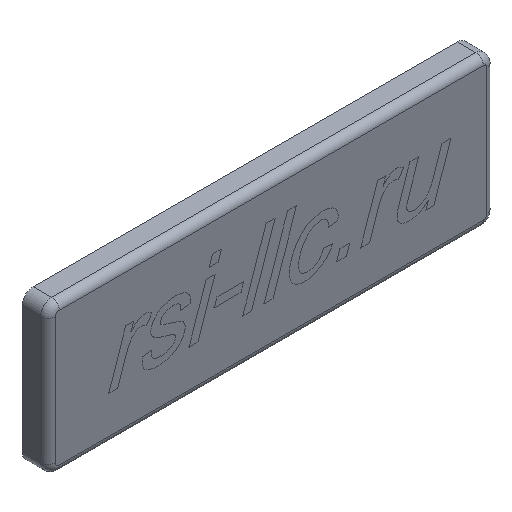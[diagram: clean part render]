
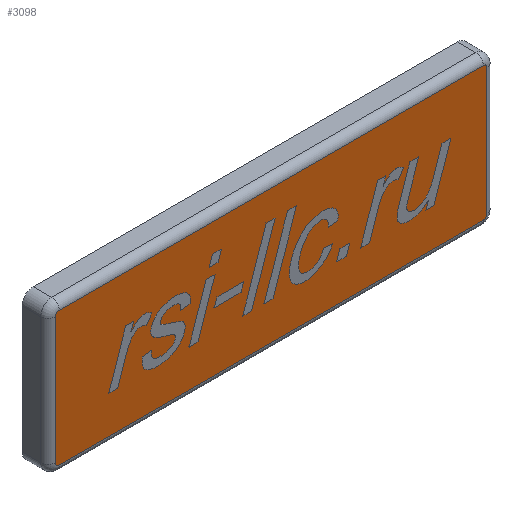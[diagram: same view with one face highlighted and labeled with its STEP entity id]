
A CAD part, isometric view. The second image highlights one B-rep face of the part: STEP entity #3098.
In plain terms, the highlighted planar face has unit normal (0, -1, 0).
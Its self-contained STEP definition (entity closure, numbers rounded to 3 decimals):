
#333 = DIRECTION ( 'NONE',  ( 0., 0., 1. ) ) ;
#494 = DIRECTION ( 'NONE',  ( 0., 1., 0. ) ) ;
#568 = VERTEX_POINT ( 'NONE', #6087 ) ;
#889 = VERTEX_POINT ( 'NONE', #9337 ) ;
#979 = AXIS2_PLACEMENT_3D ( 'NONE', #1984, #5409, #333 ) ;
#1286 = DIRECTION ( 'NONE',  ( 0., 0., 1. ) ) ;
#1600 = DIRECTION ( 'NONE',  ( 0., 0., 1. ) ) ;
#1984 = CARTESIAN_POINT ( 'NONE',  ( 28.5, 0., -8.5 ) ) ;
#2035 = VECTOR ( 'NONE', #6998, 1000. ) ;
#2042 = CARTESIAN_POINT ( 'NONE',  ( 0., 0., -9. ) ) ;
#2140 = VERTEX_POINT ( 'NONE', #11136 ) ;
#2159 = VERTEX_POINT ( 'NONE', #3340 ) ;
#2297 = CARTESIAN_POINT ( 'NONE',  ( 29., 0., 8.5 ) ) ;
#2430 = CARTESIAN_POINT ( 'NONE',  ( -29., 0., 0. ) ) ;
#2481 = EDGE_CURVE ( 'NONE', #4047, #2159, #9259, .T. ) ;
#2607 = ORIENTED_EDGE ( 'NONE', *, *, #8171, .T. ) ;
#2702 = EDGE_CURVE ( 'NONE', #5260, #568, #8004, .T. ) ;
#3098 = ADVANCED_FACE ( 'NONE', ( #4765 ), #4141, .F. ) ;
#3138 = DIRECTION ( 'NONE',  ( 0., 0., 1. ) ) ;
#3164 = ORIENTED_EDGE ( 'NONE', *, *, #2481, .T. ) ;
#3340 = CARTESIAN_POINT ( 'NONE',  ( 29., 0., -8.5 ) ) ;
#3372 = VECTOR ( 'NONE', #7158, 1000. ) ;
#3479 = CIRCLE ( 'NONE', #7074, 0.5 ) ;
#3568 = LINE ( 'NONE', #9481, #2035 ) ;
#3722 = EDGE_CURVE ( 'NONE', #2140, #5933, #5912, .T. ) ;
#3880 = CARTESIAN_POINT ( 'NONE',  ( 0., 0., 9. ) ) ;
#4047 = VERTEX_POINT ( 'NONE', #7523 ) ;
#4141 = PLANE ( 'NONE',  #10742 ) ;
#4765 = FACE_OUTER_BOUND ( 'NONE', #10656, .T. ) ;
#5020 = CARTESIAN_POINT ( 'NONE',  ( -28.5, 0., 8.5 ) ) ;
#5260 = VERTEX_POINT ( 'NONE', #5820 ) ;
#5409 = DIRECTION ( 'NONE',  ( 0., -1., 0. ) ) ;
#5448 = CARTESIAN_POINT ( 'NONE',  ( 28.5, 0., 8.5 ) ) ;
#5719 = ORIENTED_EDGE ( 'NONE', *, *, #7207, .T. ) ;
#5820 = CARTESIAN_POINT ( 'NONE',  ( 28.5, 0., 9. ) ) ;
#5912 = LINE ( 'NONE', #2430, #7838 ) ;
#5917 = CARTESIAN_POINT ( 'NONE',  ( -28.5, 0., -8.5 ) ) ;
#5933 = VERTEX_POINT ( 'NONE', #9438 ) ;
#6087 = CARTESIAN_POINT ( 'NONE',  ( -28.5, 0., 9. ) ) ;
#6613 = DIRECTION ( 'NONE',  ( 0., -1., 0. ) ) ;
#6766 = AXIS2_PLACEMENT_3D ( 'NONE', #5448, #9058, #1286 ) ;
#6998 = DIRECTION ( 'NONE',  ( 0., 0., 1. ) ) ;
#7074 = AXIS2_PLACEMENT_3D ( 'NONE', #5020, #6613, #1600 ) ;
#7158 = DIRECTION ( 'NONE',  ( -1., 0., 0. ) ) ;
#7207 = EDGE_CURVE ( 'NONE', #889, #4047, #8850, .T. ) ;
#7453 = CIRCLE ( 'NONE', #6766, 0.5 ) ;
#7523 = CARTESIAN_POINT ( 'NONE',  ( 28.5, 0., -9. ) ) ;
#7838 = VECTOR ( 'NONE', #8507, 1000. ) ;
#7991 = CIRCLE ( 'NONE', #8526, 0.5 ) ;
#8004 = LINE ( 'NONE', #3880, #3372 ) ;
#8171 = EDGE_CURVE ( 'NONE', #2159, #9025, #3568, .T. ) ;
#8217 = CARTESIAN_POINT ( 'NONE',  ( 0., 0., 0. ) ) ;
#8507 = DIRECTION ( 'NONE',  ( 0., 0., -1. ) ) ;
#8526 = AXIS2_PLACEMENT_3D ( 'NONE', #5917, #8736, #11174 ) ;
#8636 = VECTOR ( 'NONE', #8738, 1000. ) ;
#8667 = ORIENTED_EDGE ( 'NONE', *, *, #9498, .T. ) ;
#8736 = DIRECTION ( 'NONE',  ( 0., -1., 0. ) ) ;
#8738 = DIRECTION ( 'NONE',  ( 1., 0., 0. ) ) ;
#8850 = LINE ( 'NONE', #2042, #8636 ) ;
#9025 = VERTEX_POINT ( 'NONE', #2297 ) ;
#9058 = DIRECTION ( 'NONE',  ( 0., -1., 0. ) ) ;
#9063 = ORIENTED_EDGE ( 'NONE', *, *, #11024, .T. ) ;
#9259 = CIRCLE ( 'NONE', #979, 0.5 ) ;
#9337 = CARTESIAN_POINT ( 'NONE',  ( -28.5, 0., -9. ) ) ;
#9438 = CARTESIAN_POINT ( 'NONE',  ( -29., 0., -8.5 ) ) ;
#9481 = CARTESIAN_POINT ( 'NONE',  ( 29., 0., 0. ) ) ;
#9498 = EDGE_CURVE ( 'NONE', #9025, #5260, #7453, .T. ) ;
#10100 = ORIENTED_EDGE ( 'NONE', *, *, #3722, .T. ) ;
#10166 = ORIENTED_EDGE ( 'NONE', *, *, #2702, .T. ) ;
#10656 = EDGE_LOOP ( 'NONE', ( #5719, #3164, #2607, #8667, #10166, #10788, #10100, #9063 ) ) ;
#10670 = EDGE_CURVE ( 'NONE', #568, #2140, #3479, .T. ) ;
#10742 = AXIS2_PLACEMENT_3D ( 'NONE', #8217, #494, #3138 ) ;
#10788 = ORIENTED_EDGE ( 'NONE', *, *, #10670, .T. ) ;
#11024 = EDGE_CURVE ( 'NONE', #5933, #889, #7991, .T. ) ;
#11136 = CARTESIAN_POINT ( 'NONE',  ( -29., 0., 8.5 ) ) ;
#11174 = DIRECTION ( 'NONE',  ( 0., 0., 1. ) ) ;
